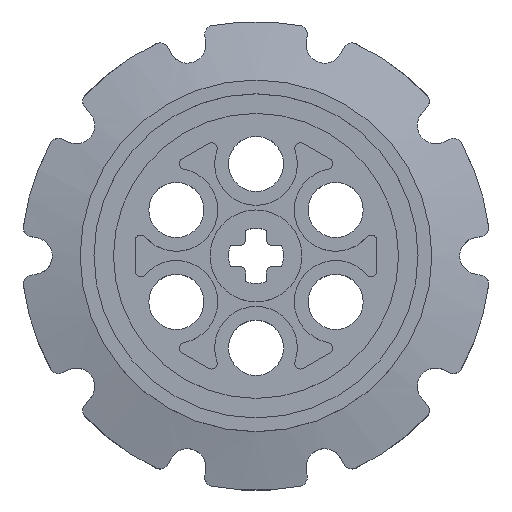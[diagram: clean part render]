
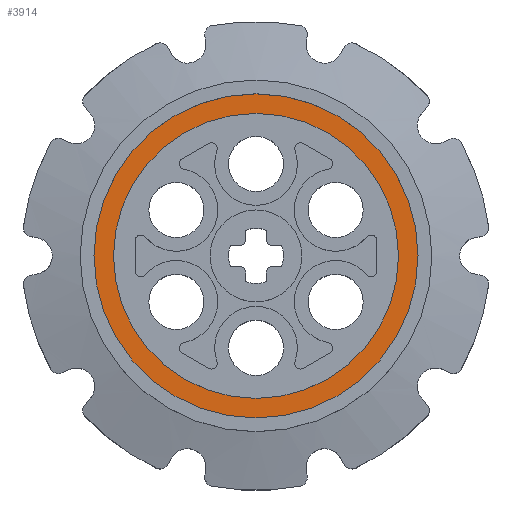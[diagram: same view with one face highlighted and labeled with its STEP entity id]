
A CAD part, top view. The second image highlights one B-rep face of the part: STEP entity #3914.
In plain terms, the highlighted planar face has unit normal (0, 0, 1).
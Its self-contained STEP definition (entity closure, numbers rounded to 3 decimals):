
#93=PLANE('',#4349);
#301=CIRCLE('',#4346,12.4);
#303=CIRCLE('',#4350,14.1);
#1582=ORIENTED_EDGE('',*,*,#2411,.T.);
#1583=ORIENTED_EDGE('',*,*,#2413,.T.);
#2411=EDGE_CURVE('',#2805,#2805,#301,.T.);
#2413=EDGE_CURVE('',#2807,#2807,#303,.F.);
#2805=VERTEX_POINT('',#7262);
#2807=VERTEX_POINT('',#7268);
#3237=EDGE_LOOP('',(#1582));
#3238=EDGE_LOOP('',(#1583));
#3531=FACE_BOUND('',#3237,.T.);
#3532=FACE_BOUND('',#3238,.T.);
#3914=ADVANCED_FACE('',(#3531,#3532),#93,.F.);
#4346=AXIS2_PLACEMENT_3D('',#7261,#5354,#5355);
#4349=AXIS2_PLACEMENT_3D('',#7266,#5360,#5361);
#4350=AXIS2_PLACEMENT_3D('',#7267,#5362,#5363);
#5354=DIRECTION('',(0.,0.,-1.));
#5355=DIRECTION('',(1.,0.,0.));
#5360=DIRECTION('',(0.,0.,-1.));
#5361=DIRECTION('',(-1.,0.,0.));
#5362=DIRECTION('',(0.,0.,-1.));
#5363=DIRECTION('',(-1.,0.,0.));
#7261=CARTESIAN_POINT('',(0.,0.,3.2));
#7262=CARTESIAN_POINT('',(12.4,0.,3.2));
#7266=CARTESIAN_POINT('',(0.,0.,3.2));
#7267=CARTESIAN_POINT('',(0.,0.,3.2));
#7268=CARTESIAN_POINT('',(-14.1,0.,3.2));
